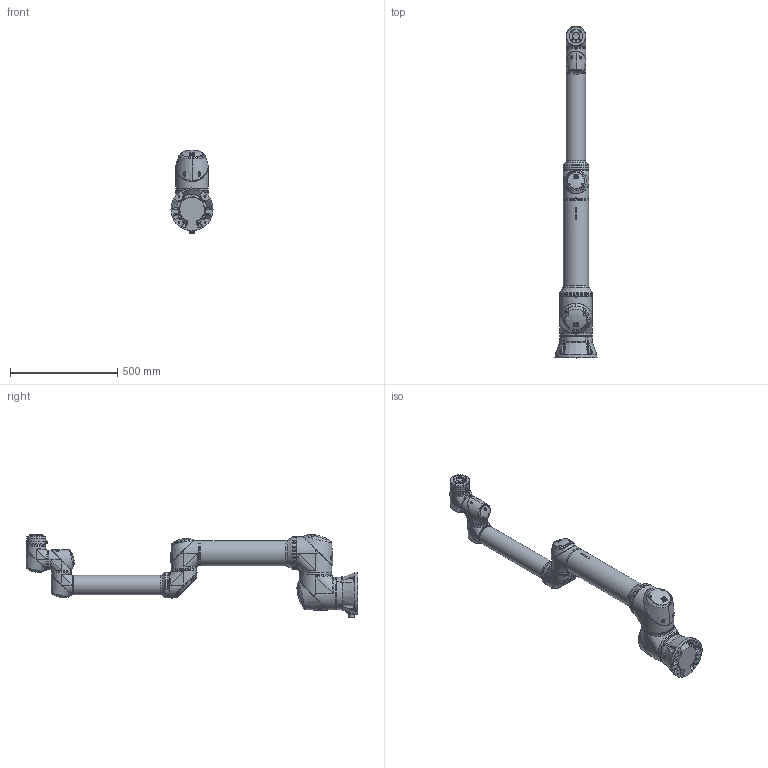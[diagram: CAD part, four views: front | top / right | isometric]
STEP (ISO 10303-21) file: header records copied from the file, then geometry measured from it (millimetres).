
FILE_DESCRIPTION(/* description */ (''),/* implementation_level */ '2;1');
FILE_NAME(/* name */ 'RB10-1300E.stp',/* time_stamp */ '2023-01-26T10:46:31+09:00',/* author */ ('ajm08'),/* organization */ (''),/* preprocessor_version */ 'ST-DEVELOPER v19.2',/* originating_system */ 'Autodesk Inventor 2023',/* authorisation */ '');
FILE_SCHEMA (('AUTOMOTIVE_DESIGN { 1 0 10303 214 3 1 1 }'));
Length unit declared in the file: millimetre
Products named in the file (8): RB10-1300E; RB10-1300E_BASE; RB10-1300E_LINK1; RB10-1300E_LINK2; RB10-1300E_LINK3; RB10-1300E_LINK4; RB10-1300E_LINK5; RB10-1300E_LINK6
Assembly tree (7 placements, depth 2):
  RB10-1300E
    RB10-1300E_BASE
    RB10-1300E_LINK1
    RB10-1300E_LINK2
    RB10-1300E_LINK3
    RB10-1300E_LINK4
    RB10-1300E_LINK5
    RB10-1300E_LINK6
Bounding box: 196.1 x 1544.49 x 386.69 mm (x, y, z)
Volume: 23740919.7 mm3; surface area: 1406791.2 mm2
Topology: 33 solids, 35 shells, 2375 faces, 6050 edges, 3931 vertices
Faces by surface type: plane 902, bspline 826, cylinder 432, cone 164, torus 43, sphere 8
Full cylindrical faces by diameter (mm): 1.5 x22, 1.7 x10, 3 x4, 3.1 x10, 3.4 x4, 4 x1, 4.5 x20, 4.917 x4, 5.5 x8, 5.6 x4, 6 x1, 6.647 x4, 8 x1, 8.5 x3, 9.8 x1, 10 x1, 11.459 x1, 12 x1, 13.233 x12, 13.666 x12, 14 x1, 14.5 x1, 16 x1, 17.5 x1, 23 x1, 31.5 x1, 63 x1, 80 x4, 82.2 x4, 85 x4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
Entity records: 243415 total; most frequent: CARTESIAN_POINT 188798, ORIENTED_EDGE 11964, DIRECTION 8617, EDGE_CURVE 5982, VERTEX_POINT 3931, AXIS2_PLACEMENT_3D 3233, EDGE_LOOP 2669, STYLED_ITEM 2400
